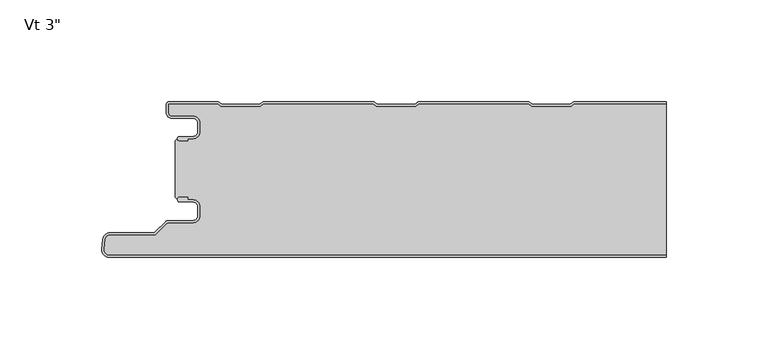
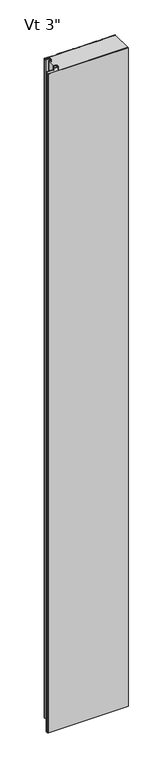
"""IFC4 building model written with IfcOpenShell, lengths in millimetres: plate geometry."""

from ifc_helpers import new_model, si_unit, point, frame, frame_2d, origin, origin_with_axes, place, context, project, spatial, polyline, circle_curve, trimmed, segment, composite_curve, outline, extrude, source, transform, mapped, element, save
from ifc_brep_helpers import plane_surface, cylinder_surface, revolved_surface, advanced_brep


def plate_640f0555(model_context):
    return source(origin(), model_context, "Body", "SolidModel", [
        advanced_brep(
        [(-118.368691, -17.0015034, 2400.0), (-119.3686883, -18.0015065, 2400.0), (-118.368691, -19.0014978, 2400.0), (-114.3684874, -19.0014979, 2400.0), (-114.3684874, -18.0015034, 2400.0), (-111.6762776, -18.0015034, 2400.0), (-108.3762819, -14.7015077, 2400.0), (-108.3762819, -10.3015164, 2400.0), (-111.6762774, -7.001521, 2400.0), (-122.0962563, -7.001521, 2400.0), (-123.8662505, -5.2315268, 2400.0), (-123.8662505, -0.9999791, 2400.0), (-99.3659738, -0.9999791, 2400.0), (-97.9803312, -2.2002182, 2400.0), (-78.6051649, -2.2002182, 2400.0), (-77.219532, -0.9999874, 2400.0), (-23.1661166, -0.9999874, 2400.0), (-21.7804836, -2.2002182, 2400.0), (-2.4053173, -2.2002182, 2400.0), (-1.0196844, -0.9999874, 2400.0), (53.033731, -0.9999874, 2400.0), (54.419364, -2.2002182, 2400.0), (73.7945303, -2.2002182, 2400.0), (75.1801632, -0.9999874, 2400.0), (120.3999998, -0.9999874, 2400.0), (120.3999998, 1.26e-05, 2400.0), (75.3293144, 1.26e-05, 2400.0), (74.4126975, -0.3417759, 2400.0), (73.4216499, -1.2002182, 2400.0), (54.7922444, -1.2002182, 2400.0), (53.8011968, -0.3417759, 2400.0), (52.8845799, 1.26e-05, 2400.0), (-0.8705332, 1.26e-05, 2400.0), (-1.7871501, -0.3417759, 2400.0), (-2.7781977, -1.2002182, 2400.0), (-21.4076032, -1.2002182, 2400.0), (-22.3986508, -0.3417759, 2400.0), (-23.3152677, 1.26e-05, 2400.0), (-77.0703808, 1.26e-05, 2400.0), (-77.9869977, -0.3417759, 2400.0), (-78.9780453, -1.2002182, 2400.0), (-97.6074508, -1.2002182, 2400.0), (-98.5984984, -0.3417759, 2400.0), (-99.5152067, 1.26e-05, 2400.0), (-123.4662543, 2.09e-05, 2400.0), (-124.8662505, -1.3999752, 2400.0), (-124.8662505, -5.2315268, 2400.0), (-122.0962563, -8.001521, 2400.0), (-111.6762774, -8.001521, 2400.0), (-109.3762819, -10.3015164, 2400.0), (-109.3762819, -14.7015077, 2400.0), (-111.6762776, -17.0015034, 2400.0), (-118.368691, -17.0015034, 0.0), (-111.6762776, -17.0015034, 0.0), (-109.3762819, -14.7015077, 0.0), (-109.3762819, -10.3015164, 0.0), (-111.6762774, -8.001521, 0.0), (-122.0962563, -8.001521, 0.0), (-124.8662505, -5.2315268, 0.0), (-124.8662505, -1.3999752, 0.0), (-123.4662543, 2.09e-05, 0.0), (-99.5151153, 2.09e-05, 0.0), (-98.5984984, -0.3417759, 0.0), (-97.6074508, -1.2002182, 0.0), (-78.9780453, -1.2002182, 0.0), (-77.9869977, -0.3417759, 0.0), (-77.0703808, 1.26e-05, 0.0), (-23.3152677, 1.26e-05, 0.0), (-22.3986508, -0.3417759, 0.0), (-21.4076032, -1.2002182, 0.0), (-2.7781977, -1.2002182, 0.0), (-1.7871501, -0.3417759, 0.0), (-0.8705332, 1.26e-05, 0.0), (52.8845799, 1.26e-05, 0.0), (53.8011968, -0.3417759, 0.0), (54.7922444, -1.2002182, 0.0), (73.4216499, -1.2002182, 0.0), (74.4126975, -0.3417759, 0.0), (75.3293144, 1.26e-05, 0.0), (120.3999998, 1.26e-05, 0.0), (120.3999998, -0.9999874, 0.0), (75.1801632, -0.9999874, 0.0), (73.7945303, -2.2002182, 0.0), (54.419364, -2.2002182, 0.0), (53.033731, -0.9999874, 0.0), (-1.0196844, -0.9999874, 0.0), (-2.4053173, -2.2002182, 0.0), (-21.7804836, -2.2002182, 0.0), (-23.1661166, -0.9999874, 0.0), (-77.219532, -0.9999874, 0.0), (-78.6051649, -2.2002182, 0.0), (-97.9803312, -2.2002182, 0.0), (-99.3659738, -0.9999791, 0.0), (-123.8662505, -0.9999791, 0.0), (-123.8662505, -5.2315268, 0.0), (-122.0962563, -7.001521, 0.0), (-111.6762774, -7.001521, 0.0), (-108.3762819, -10.3015164, 0.0), (-108.3762819, -14.7015077, 0.0), (-111.6762776, -18.0015034, 0.0), (-114.3684874, -18.0015034, 0.0), (-114.3684874, -19.0014979, 0.0), (-118.368691, -19.0014979, 0.0), (-119.3686882, -18.0015065, 0.0)],
        [
            (0, 1, circle_curve(frame((-118.368691, -18.0015006, 2400.0), z_axis=(0.0, 0.0, 1.0), x_axis=(1.0, 0.0, 0.0)), 0.9999973)),
            (1, 2, circle_curve(frame((-118.368691, -18.0015006, 2400.0), z_axis=(0.0, 0.0, 1.0), x_axis=(1.0, 0.0, 0.0)), 0.9999972)),
            (2, 3),
            (3, 4),
            (4, 5),
            (5, 6, circle_curve(frame((-111.6762776, -14.7015077, 2400.0), z_axis=(0.0, 0.0, 1.0), x_axis=(1.0, 0.0, 0.0)), 3.2999957)),
            (6, 7),
            (7, 8, circle_curve(frame((-111.6762774, -10.3015164, 2400.0), z_axis=(0.0, 0.0, 1.0), x_axis=(1.0, 0.0, 0.0)), 3.2999955)),
            (8, 9),
            (9, 10, circle_curve(frame((-122.0962563, -5.2315268, 2400.0), z_axis=(0.0, 0.0, -1.0), x_axis=(1.0, 0.0, 0.0)), 1.7699942)),
            (10, 11),
            (11, 12),
            (12, 13),
            (13, 14),
            (14, 15),
            (15, 16),
            (16, 17),
            (17, 18),
            (18, 19),
            (19, 20),
            (20, 21),
            (21, 22),
            (22, 23),
            (23, 24),
            (24, 25),
            (25, 26),
            (26, 27, circle_curve(frame((75.3293144, -1.3999846, 2400.0), z_axis=(0.0, 0.0, 1.0), x_axis=(1.0, 0.0, 0.0)), 1.3999972)),
            (27, 28),
            (28, 29),
            (29, 30),
            (30, 31, circle_curve(frame((52.8845799, -1.3999846, 2400.0), z_axis=(0.0, 0.0, 1.0), x_axis=(1.0, 0.0, 0.0)), 1.3999972)),
            (31, 32),
            (32, 33, circle_curve(frame((-0.8705332, -1.3999846, 2400.0), z_axis=(0.0, 0.0, 1.0), x_axis=(1.0, 0.0, 0.0)), 1.3999972)),
            (33, 34),
            (34, 35),
            (35, 36),
            (36, 37, circle_curve(frame((-23.3152677, -1.3999846, 2400.0), z_axis=(0.0, 0.0, 1.0), x_axis=(1.0, 0.0, 0.0)), 1.3999972)),
            (37, 38),
            (38, 39, circle_curve(frame((-77.0703808, -1.3999846, 2400.0), z_axis=(0.0, 0.0, 1.0), x_axis=(1.0, 0.0, 0.0)), 1.3999972)),
            (39, 40),
            (40, 41),
            (41, 42),
            (42, 43, circle_curve(frame((-99.5151153, -1.3999846, 2400.0), z_axis=(0.0, 0.0, 1.0), x_axis=(1.0, 0.0, 0.0)), 1.3999972)),
            (43, 44),
            (44, 45, circle_curve(frame((-123.4662543, -1.3999752, 2400.0), z_axis=(0.0, 0.0, 1.0), x_axis=(1.0, 0.0, 0.0)), 1.3999962)),
            (45, 46),
            (46, 47, circle_curve(frame((-122.0962563, -5.2315268, 2400.0), z_axis=(0.0, 0.0, 1.0), x_axis=(1.0, 0.0, 0.0)), 2.7699942)),
            (47, 48),
            (48, 49, circle_curve(frame((-111.6762774, -10.3015164, 2400.0), z_axis=(0.0, 0.0, -1.0), x_axis=(1.0, 0.0, 0.0)), 2.2999955)),
            (49, 50),
            (50, 51, circle_curve(frame((-111.6762776, -14.7015077, 2400.0), z_axis=(0.0, 0.0, -1.0), x_axis=(1.0, 0.0, 0.0)), 2.2999957)),
            (51, 0),
            (52, 53),
            (53, 54, circle_curve(frame((-111.6762776, -14.7015077, 0.0), z_axis=(0.0, 0.0, 1.0), x_axis=(1.0, 0.0, 0.0)), 2.2999957)),
            (54, 55),
            (55, 56, circle_curve(frame((-111.6762774, -10.3015164, 0.0), z_axis=(0.0, 0.0, 1.0), x_axis=(1.0, 0.0, 0.0)), 2.2999955)),
            (56, 57),
            (57, 58, circle_curve(frame((-122.0962563, -5.2315268, 0.0), z_axis=(0.0, 0.0, -1.0), x_axis=(1.0, 0.0, 0.0)), 2.7699942)),
            (58, 59),
            (59, 60, circle_curve(frame((-123.4662543, -1.3999752, 0.0), z_axis=(0.0, 0.0, -1.0), x_axis=(1.0, 0.0, 0.0)), 1.3999962)),
            (60, 61),
            (61, 62, circle_curve(frame((-99.5151153, -1.3999846, 0.0), z_axis=(0.0, 0.0, -1.0), x_axis=(1.0, 0.0, 0.0)), 1.3999972)),
            (62, 63),
            (63, 64),
            (64, 65),
            (65, 66, circle_curve(frame((-77.0703808, -1.3999846, 0.0), z_axis=(0.0, 0.0, -1.0), x_axis=(1.0, 0.0, 0.0)), 1.3999972)),
            (66, 67),
            (67, 68, circle_curve(frame((-23.3152677, -1.3999846, 0.0), z_axis=(0.0, 0.0, -1.0), x_axis=(1.0, 0.0, 0.0)), 1.3999972)),
            (68, 69),
            (69, 70),
            (70, 71),
            (71, 72, circle_curve(frame((-0.8705332, -1.3999846, 0.0), z_axis=(0.0, 0.0, -1.0), x_axis=(1.0, 0.0, 0.0)), 1.3999972)),
            (72, 73),
            (73, 74, circle_curve(frame((52.8845799, -1.3999846, 0.0), z_axis=(0.0, 0.0, -1.0), x_axis=(1.0, 0.0, 0.0)), 1.3999972)),
            (74, 75),
            (75, 76),
            (76, 77),
            (77, 78, circle_curve(frame((75.3293144, -1.3999846, 0.0), z_axis=(0.0, 0.0, -1.0), x_axis=(1.0, 0.0, 0.0)), 1.3999972)),
            (78, 79),
            (79, 80),
            (80, 81),
            (81, 82),
            (82, 83),
            (83, 84),
            (84, 85),
            (85, 86),
            (86, 87),
            (87, 88),
            (88, 89),
            (89, 90),
            (90, 91),
            (91, 92),
            (92, 93),
            (93, 94),
            (94, 95, circle_curve(frame((-122.0962563, -5.2315268, 0.0), z_axis=(0.0, 0.0, 1.0), x_axis=(1.0, 0.0, 0.0)), 1.7699942)),
            (95, 96),
            (96, 97, circle_curve(frame((-111.6762774, -10.3015164, 0.0), z_axis=(0.0, 0.0, -1.0), x_axis=(1.0, 0.0, 0.0)), 3.2999955)),
            (97, 98),
            (98, 99, circle_curve(frame((-111.6762776, -14.7015077, 0.0), z_axis=(0.0, 0.0, -1.0), x_axis=(1.0, 0.0, 0.0)), 3.2999957)),
            (99, 100),
            (100, 101),
            (101, 102),
            (102, 103, circle_curve(frame((-118.368691, -18.0015006, 0.0), z_axis=(0.0, 0.0, -1.0), x_axis=(1.0, 0.0, 0.0)), 0.9999972)),
            (103, 52, circle_curve(frame((-118.368691, -18.0015006, 0.0), z_axis=(0.0, 0.0, -1.0), x_axis=(1.0, 0.0, 0.0)), 0.9999973)),
            (24, 80),
            (79, 25),
            (51, 53),
            (52, 0),
            (50, 54),
            (49, 55),
            (48, 56),
            (47, 57),
            (46, 58),
            (45, 59),
            (44, 60),
            (43, 61),
            (78, 26),
            (42, 62),
            (41, 63),
            (40, 64),
            (38, 66),
            (65, 39),
            (36, 68),
            (67, 37),
            (77, 27),
            (76, 28),
            (31, 73),
            (72, 32),
            (71, 33),
            (34, 70),
            (69, 35),
            (30, 74),
            (29, 75),
            (2, 102),
            (101, 3),
            (1, 103),
            (23, 81),
            (22, 82),
            (21, 83),
            (20, 84),
            (19, 85),
            (18, 86),
            (17, 87),
            (16, 88),
            (15, 89),
            (14, 90),
            (13, 91),
            (12, 92),
            (11, 93),
            (10, 94),
            (9, 95),
            (8, 96),
            (7, 97),
            (6, 98),
            (5, 99),
            (4, 100),
        ],
        [
            plane_surface(frame((184.4000002, 1.26e-05, 2400.0), z_axis=(0.0, 0.0, 1.0), x_axis=(0.0, 1.0, 0.0))),
            plane_surface(frame((184.4000002, 1.26e-05, 0.0), z_axis=(0.0, 0.0, -1.0), x_axis=(0.0, 1.0, 0.0))),
            plane_surface(frame((120.3999998, -86.1999874, 2400.0), z_axis=(1.0, 0.0, 0.0), x_axis=(0.0, 0.0, -1.0))),
            plane_surface(frame((-118.368691, -17.0015034, 2400.0), z_axis=(0.0, 1.0, 0.0), x_axis=(0.0, 0.0, -1.0))),
            revolved_surface(polyline([(-109.37628190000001, -14.7015077, 0.0), (-109.37628190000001, -14.7015077, 2400.0)]), (-111.6762776, -14.7015077, 2400.0), (0.0, 0.0, -1.0)),
            plane_surface(frame((-109.3762819, -14.7015077, 2400.0), z_axis=(-1.0, 0.0, 0.0), x_axis=(0.0, 0.0, -1.0))),
            revolved_surface(polyline([(-109.37628190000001, -10.3015164, 0.0), (-109.37628190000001, -10.3015164, 2400.0)]), (-111.6762774, -10.3015164, 2400.0), (0.0, 0.0, -1.0)),
            plane_surface(frame((-111.6762774, -8.001521, 2400.0), z_axis=(0.0, -1.0, 0.0), x_axis=(0.0, 0.0, -1.0))),
            cylinder_surface(frame((-122.0962563, -5.2315268, 2400.0), z_axis=(0.0, 0.0, 1.0), x_axis=(1.0, 0.0, 0.0)), 2.7699942),
            plane_surface(frame((-124.8662505, -5.2315268, 2400.0), z_axis=(-1.0, 0.0, 0.0), x_axis=(0.0, 0.0, -1.0))),
            cylinder_surface(frame((-123.4662543, -1.3999752, 2400.0), z_axis=(0.0, 0.0, 1.0), x_axis=(1.0, 0.0, 0.0)), 1.3999962),
            plane_surface(frame((-123.4662543, 2.09e-05, 2400.0), z_axis=(0.0, 1.0, 0.0), x_axis=(0.0, 0.0, -1.0))),
            plane_surface(frame((75.3293144, 1.26e-05, 2400.0), z_axis=(0.0, 1.0, 0.0), x_axis=(0.0, 0.0, -1.0))),
            cylinder_surface(frame((-99.5151153, -1.3999846, 2400.0), z_axis=(0.0, 0.0, 1.0), x_axis=(1.0, 0.0, 0.0)), 1.3999972),
            plane_surface(frame((-98.5984984, -0.3417759, 2400.0), z_axis=(0.6547276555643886, 0.755864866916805, 0.0), x_axis=(0.0, 0.0, -1.0))),
            plane_surface(frame((-88.2927481, -1.2002182, 2400.0), z_axis=(0.0, 1.0, 0.0), x_axis=(0.0, 0.0, -1.0))),
            cylinder_surface(frame((-77.0703808, -1.3999846, 2400.0), z_axis=(0.0, 0.0, 1.0), x_axis=(1.0, 0.0, 0.0)), 1.3999972),
            plane_surface(frame((-78.9780453, -1.2002182, 2400.0), z_axis=(-0.6547276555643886, 0.755864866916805, 0.0), x_axis=(0.0, 0.0, -1.0))),
            cylinder_surface(frame((-23.3152677, -1.3999846, 2400.0), z_axis=(0.0, 0.0, 1.0), x_axis=(1.0, 0.0, 0.0)), 1.3999972),
            cylinder_surface(frame((75.3293144, -1.3999846, 2400.0), z_axis=(0.0, 0.0, 1.0), x_axis=(1.0, 0.0, 0.0)), 1.3999972),
            plane_surface(frame((73.4216499, -1.2002182, 2400.0), z_axis=(-0.6547276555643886, 0.755864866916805, 0.0), x_axis=(0.0, 0.0, -1.0))),
            plane_surface(frame((-0.8705332, 1.26e-05, 2400.0), z_axis=(0.0, 1.0, 0.0), x_axis=(0.0, 0.0, -1.0))),
            cylinder_surface(frame((-0.8705332, -1.3999846, 2400.0), z_axis=(0.0, 0.0, 1.0), x_axis=(1.0, 0.0, 0.0)), 1.3999972),
            plane_surface(frame((-12.0929005, -1.2002182, 2400.0), z_axis=(0.0, 1.0, 0.0), x_axis=(0.0, 0.0, -1.0))),
            plane_surface(frame((-22.3986508, -0.3417759, 2400.0), z_axis=(0.6547276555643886, 0.755864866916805, 0.0), x_axis=(0.0, 0.0, -1.0))),
            plane_surface(frame((-2.7781977, -1.2002182, 2400.0), z_axis=(-0.6547276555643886, 0.755864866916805, 0.0), x_axis=(0.0, 0.0, -1.0))),
            plane_surface(frame((-77.0703808, 1.26e-05, 2400.0), z_axis=(0.0, 1.0, 0.0), x_axis=(0.0, 0.0, -1.0))),
            cylinder_surface(frame((52.8845799, -1.3999846, 2400.0), z_axis=(0.0, 0.0, 1.0), x_axis=(1.0, 0.0, 0.0)), 1.3999972),
            plane_surface(frame((53.8011968, -0.3417759, 2400.0), z_axis=(0.6547276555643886, 0.755864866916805, 0.0), x_axis=(0.0, 0.0, -1.0))),
            plane_surface(frame((64.1069471, -1.2002182, 2400.0), z_axis=(0.0, 1.0, 0.0), x_axis=(0.0, 0.0, -1.0))),
            plane_surface(frame((-114.3684874, -19.0014979, 2400.0), z_axis=(0.0, -1.0, 0.0), x_axis=(0.0, 0.0, -1.0))),
            cylinder_surface(frame((-118.368691, -18.0015006, 2400.0), z_axis=(0.0, 0.0, 1.0), x_axis=(1.0, 0.0, 0.0)), 0.9999972),
            cylinder_surface(frame((-118.368691, -18.0015006, 2400.0), z_axis=(0.0, 0.0, 1.0), x_axis=(1.0, 0.0, 0.0)), 0.9999973),
            plane_surface(frame((129.2335786, -0.9999874, 2400.0), z_axis=(0.0, -1.0, 0.0), x_axis=(0.0, 0.0, -1.0))),
            plane_surface(frame((75.1801632, -0.9999874, 2400.0), z_axis=(0.6547276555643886, -0.755864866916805, 0.0), x_axis=(0.0, 0.0, -1.0))),
            plane_surface(frame((73.7945303, -2.2002182, 2400.0), z_axis=(0.0, -1.0, 0.0), x_axis=(0.0, 0.0, -1.0))),
            plane_surface(frame((54.419364, -2.2002182, 2400.0), z_axis=(-0.6547276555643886, -0.755864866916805, 0.0), x_axis=(0.0, 0.0, -1.0))),
            plane_surface(frame((53.033731, -0.9999874, 2400.0), z_axis=(0.0, -1.0, 0.0), x_axis=(0.0, 0.0, -1.0))),
            plane_surface(frame((-1.0196844, -0.9999874, 2400.0), z_axis=(0.6547276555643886, -0.755864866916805, 0.0), x_axis=(0.0, 0.0, -1.0))),
            plane_surface(frame((-2.4053173, -2.2002182, 2400.0), z_axis=(0.0, -1.0, 0.0), x_axis=(0.0, 0.0, -1.0))),
            plane_surface(frame((-21.7804836, -2.2002182, 2400.0), z_axis=(-0.6547276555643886, -0.755864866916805, 0.0), x_axis=(0.0, 0.0, -1.0))),
            plane_surface(frame((-23.1661166, -0.9999874, 2400.0), z_axis=(0.0, -1.0, 0.0), x_axis=(0.0, 0.0, -1.0))),
            plane_surface(frame((-77.219532, -0.9999874, 2400.0), z_axis=(0.6547276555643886, -0.755864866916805, 0.0), x_axis=(0.0, 0.0, -1.0))),
            plane_surface(frame((-78.6051649, -2.2002182, 2400.0), z_axis=(0.0, -1.0, 0.0), x_axis=(0.0, 0.0, -1.0))),
            plane_surface(frame((-97.9803312, -2.2002182, 2400.0), z_axis=(-0.6547276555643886, -0.755864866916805, 0.0), x_axis=(0.0, 0.0, -1.0))),
            plane_surface(frame((-99.3659738, -0.9999791, 2400.0), z_axis=(0.0, -1.0, 0.0), x_axis=(0.0, 0.0, -1.0))),
            plane_surface(frame((-123.8662505, -0.9999791, 2400.0), z_axis=(1.0, 0.0, 0.0), x_axis=(0.0, 0.0, -1.0))),
            revolved_surface(polyline([(-120.3262621, -5.2315268, 0.0), (-120.3262621, -5.2315268, 2400.0)]), (-122.0962563, -5.2315268, 2400.0), (0.0, 0.0, -1.0)),
            plane_surface(frame((-122.0962563, -7.001521, 2400.0), z_axis=(0.0, 1.0, 0.0), x_axis=(0.0, 0.0, -1.0))),
            cylinder_surface(frame((-111.6762774, -10.3015164, 2400.0), z_axis=(0.0, 0.0, 1.0), x_axis=(1.0, 0.0, 0.0)), 3.2999955),
            plane_surface(frame((-108.3762819, -10.3015164, 2400.0), z_axis=(1.0, 0.0, 0.0), x_axis=(0.0, 0.0, -1.0))),
            cylinder_surface(frame((-111.6762776, -14.7015077, 2400.0), z_axis=(0.0, 0.0, 1.0), x_axis=(1.0, 0.0, 0.0)), 3.2999957),
            plane_surface(frame((-111.6762776, -18.0015034, 2400.0), z_axis=(0.0, -1.0, 0.0), x_axis=(0.0, 0.0, -1.0))),
            plane_surface(frame((-114.3684874, -18.0015034, 2400.0), z_axis=(1.0, 0.0, 0.0), x_axis=(0.0, 0.0, -1.0))),
        ],
        [
            (0, [[1, 2, 3, 4, 5, 6, 7, 8, 9, 10, 11, 12, 13, 14, 15, 16, 17, 18, 19, 20, 21, 22, 23, 24, 25, 26, 27, 28, 29, 30, 31, 32, 33, 34, 35, 36, 37, 38, 39, 40, 41, 42, 43, 44, 45, 46, 47, 48, 49, 50, 51, 52]]),
            (1, [[53, 54, 55, 56, 57, 58, 59, 60, 61, 62, 63, 64, 65, 66, 67, 68, 69, 70, 71, 72, 73, 74, 75, 76, 77, 78, 79, 80, 81, 82, 83, 84, 85, 86, 87, 88, 89, 90, 91, 92, 93, 94, 95, 96, 97, 98, 99, 100, 101, 102, 103, 104]]),
            (2, [[105, -80, 106, -25]]),
            (3, [[107, -53, 108, -52]]),
            (4, [[109, -54, -107, -51]]),
            (5, [[110, -55, -109, -50]]),
            (6, [[111, -56, -110, -49]]),
            (7, [[112, -57, -111, -48]]),
            (8, [[113, -58, -112, -47]]),
            (9, [[114, -59, -113, -46]]),
            (10, [[115, -60, -114, -45]]),
            (11, [[116, -61, -115, -44]]),
            (12, [[-26, -106, -79, 117]]),
            (13, [[118, -62, -116, -43]]),
            (14, [[119, -63, -118, -42]]),
            (15, [[120, -64, -119, -41]]),
            (16, [[121, -66, 122, -39]]),
            (17, [[-122, -65, -120, -40]]),
            (18, [[123, -68, 124, -37]]),
            (19, [[-117, -78, 125, -27]]),
            (20, [[-125, -77, 126, -28]]),
            (21, [[127, -73, 128, -32]]),
            (22, [[-128, -72, 129, -33]]),
            (23, [[130, -70, 131, -35]]),
            (24, [[-131, -69, -123, -36]]),
            (25, [[-129, -71, -130, -34]]),
            (26, [[-124, -67, -121, -38]]),
            (27, [[132, -74, -127, -31]]),
            (28, [[133, -75, -132, -30]]),
            (29, [[-126, -76, -133, -29]]),
            (30, [[134, -102, 135, -3]]),
            (31, [[136, -103, -134, -2]]),
            (32, [[-108, -104, -136, -1]]),
            (33, [[-81, -105, -24, 137]]),
            (34, [[138, -82, -137, -23]]),
            (35, [[139, -83, -138, -22]]),
            (36, [[140, -84, -139, -21]]),
            (37, [[141, -85, -140, -20]]),
            (38, [[142, -86, -141, -19]]),
            (39, [[143, -87, -142, -18]]),
            (40, [[144, -88, -143, -17]]),
            (41, [[145, -89, -144, -16]]),
            (42, [[146, -90, -145, -15]]),
            (43, [[147, -91, -146, -14]]),
            (44, [[148, -92, -147, -13]]),
            (45, [[149, -93, -148, -12]]),
            (46, [[150, -94, -149, -11]]),
            (47, [[151, -95, -150, -10]]),
            (48, [[152, -96, -151, -9]]),
            (49, [[153, -97, -152, -8]]),
            (50, [[154, -98, -153, -7]]),
            (51, [[155, -99, -154, -6]]),
            (52, [[156, -100, -155, -5]]),
            (53, [[-135, -101, -156, -4]]),
        ],
    ),
        extrude(outline(composite_curve([segment(polyline([(-156.4087505, -72.3183478), (-155.9690674, -67.2944311)]), True, "CONTINUOUS"), segment(trimmed(circle_curve(frame_2d((-152.3198391, -67.9052322)), 3.6999926), [point((-155.9690674, -67.2944311))], [point((-152.3198391, -64.2052396))], False, "CARTESIAN"), True, "CONTINUOUS"), segment(polyline([(-152.3198391, -64.2052396), (-131.1773995, -64.2052396)]), True, "CONTINUOUS"), segment(trimmed(circle_curve(frame_2d((-131.1773995, -62.9052422)), 1.2999974), [point((-131.1773995, -64.2052396))], [point((-130.2581626, -63.8244792))], True, "CARTESIAN"), True, "CONTINUOUS"), segment(polyline([(-130.2581626, -63.8244792), (-125.4297451, -58.9960618)]), True, "CONTINUOUS"), segment(trimmed(circle_curve(frame_2d((-123.5205606, -60.9052462)), 2.6999946), [point((-125.4297451, -58.9960618))], [point((-123.5205606, -58.2052516))], False, "CARTESIAN"), True, "CONTINUOUS"), segment(polyline([(-123.5205606, -58.2052516), (-111.7096715, -58.2052516)]), True, "CONTINUOUS"), segment(trimmed(circle_curve(frame_2d((-111.7096715, -55.8552563)), 2.3499953), [point((-111.7096715, -58.2052516))], [point((-109.3596762, -55.8552563))], True, "CARTESIAN"), True, "CONTINUOUS"), segment(polyline([(-109.3596762, -55.8552563), (-109.3596762, -51.4552651)]), True, "CONTINUOUS"), segment(trimmed(circle_curve(frame_2d((-111.7096715, -51.4552651)), 2.3499953), [point((-109.3596762, -51.4552651))], [point((-111.7096715, -49.1052698))], True, "CARTESIAN"), True, "CONTINUOUS"), segment(polyline([(-111.7096715, -49.1052698), (-118.2289777, -49.1052698)]), True, "CONTINUOUS"), segment(trimmed(circle_curve(frame_2d((-118.1686906, -47.9067876)), 1.1999976), [point((-118.2289777, -49.1052698))], [point((-119.3683, -47.8762657))], False, "CARTESIAN"), True, "CONTINUOUS"), segment(trimmed(circle_curve(frame_2d((-118.1686906, -47.9067876)), 1.1999976), [point((-119.3683, -47.8762657))], [point((-118.167176, -46.706791))], False, "CARTESIAN"), True, "CONTINUOUS"), segment(polyline([(-118.167176, -46.706791), (-114.4087826, -46.706791), (-114.4087826, -48.1052698), (-111.7096715, -48.1052698)]), True, "CONTINUOUS"), segment(trimmed(circle_curve(frame_2d((-111.7096715, -51.4552651)), 3.3499953), [point((-111.7096715, -48.1052698))], [point((-108.3596762, -51.4552651))], False, "CARTESIAN"), True, "CONTINUOUS"), segment(polyline([(-108.3596762, -51.4552651), (-108.3596762, -55.8552563)]), True, "CONTINUOUS"), segment(trimmed(circle_curve(frame_2d((-111.7096715, -55.8552563)), 3.3499953), [point((-108.3596762, -55.8552563))], [point((-111.7096715, -59.2052516))], False, "CARTESIAN"), True, "CONTINUOUS"), segment(polyline([(-111.7096715, -59.2052516), (-123.5205606, -59.2052516)]), True, "CONTINUOUS"), segment(trimmed(circle_curve(frame_2d((-123.5205606, -60.9052462)), 1.6999946), [point((-123.5205606, -59.2052516))], [point((-124.7226383, -59.7031685))], True, "CARTESIAN"), True, "CONTINUOUS"), segment(polyline([(-124.7226383, -59.7031685), (-130.2247094, -65.2052396), (-152.3198391, -65.2052396)]), True, "CONTINUOUS"), segment(trimmed(circle_curve(frame_2d((-152.3198391, -67.9052322)), 2.6999926), [point((-152.3198391, -65.2052396))], [point((-154.9765707, -67.4238416))], True, "CARTESIAN"), True, "CONTINUOUS"), segment(polyline([(-154.9765707, -67.4238416), (-155.4125697, -72.4056625)]), True, "CONTINUOUS"), segment(trimmed(circle_curve(frame_2d((-152.8521175, -72.6297482)), 2.5702393), [point((-155.4125697, -72.4056625))], [point((-152.9094458, -75.199348))], True, "CARTESIAN"), True, "CONTINUOUS"), segment(polyline([(-152.9094458, -75.199348), (120.3999998, -75.199348), (120.3999998, -76.1996828), (-152.8521038, -76.1998575)]), True, "CONTINUOUS"), segment(trimmed(circle_curve(frame_2d((-152.8521061, -72.6296182)), 3.5702393), [point((-152.8521038, -76.1998575))], [point((-156.4087505, -72.3183478))], False, "CARTESIAN"), True, "CONTINUOUS")], self_intersect=False)), origin_with_axes(), (0.0, 0.0, 1.0), 2400.0),
        advanced_brep(
        [(-119.3683, -47.8708624, 2400.0), (-118.167176, -46.7013877, 2400.0), (-114.4087826, -46.7013877, 2400.0), (-114.4087826, -48.0998666, 2400.0), (-111.7096715, -48.0998666, 2400.0), (-108.3596762, -51.4498619, 2400.0), (-108.3596762, -55.8498531, 2400.0), (-111.7096715, -59.1998484, 2400.0), (-123.5205606, -59.1998484, 2400.0), (-124.7226383, -59.6977653, 2400.0), (-130.2247094, -65.1998364, 2400.0), (-152.3198391, -65.1998364, 2400.0), (-154.9765707, -67.4184384, 2400.0), (-155.4125697, -72.4002592, 2400.0), (-152.8521175, -75.1945842, 2400.0), (120.3999998, -75.1999874, 2400.0), (120.3999998, -0.9999874, 2400.0), (75.1801633, -0.9999874, 2400.0), (73.7945303, -2.2002182, 2400.0), (54.419364, -2.2002182, 2400.0), (53.0337311, -0.9999874, 2400.0), (-1.0196843, -0.9999874, 2400.0), (-2.4053173, -2.2002182, 2400.0), (-21.7804836, -2.2002182, 2400.0), (-23.1661165, -0.9999874, 2400.0), (-77.2195319, -0.9999874, 2400.0), (-78.6051649, -2.2002182, 2400.0), (-97.9803312, -2.2002182, 2400.0), (-99.3659738, -0.9999791, 2400.0), (-123.8662504, -0.9999791, 2400.0), (-123.8662504, -5.2315264, 2400.0), (-122.0962562, -7.0015206, 2400.0), (-111.6762777, -7.0015206, 2400.0), (-108.3762818, -10.3015164, 2400.0), (-108.3762818, -14.7015077, 2400.0), (-111.6762775, -18.0015034, 2400.0), (-114.3684873, -18.0015034, 2400.0), (-114.3684873, -19.0014979, 2400.0), (-118.368691, -19.0014979, 2400.0), (-119.3686882, -18.0015066, 2400.0), (-120.3999998, -19.0328183, 2400.0), (-120.3999998, -46.8391626, 2400.0), (-119.3683, -47.8708624, 0.0), (-120.3999998, -46.8391626, 0.0), (-120.3999998, -19.0328183, 0.0), (-119.3686882, -18.0015066, 0.0), (-118.368691, -19.0014979, 0.0), (-114.3684873, -19.0014979, 0.0), (-114.3684873, -18.0015034, 0.0), (-111.6762775, -18.0015034, 0.0), (-108.3762818, -14.7015077, 0.0), (-108.3762818, -10.3015164, 0.0), (-111.6762777, -7.0015206, 0.0), (-122.0962562, -7.0015206, 0.0), (-123.8662504, -5.2315264, 0.0), (-123.8662504, -0.9999791, 0.0), (-99.3659738, -0.9999791, 0.0), (-97.9803312, -2.2002182, 0.0), (-78.6051649, -2.2002182, 0.0), (-77.2195319, -0.9999874, 0.0), (-23.1661165, -0.9999874, 0.0), (-21.7804836, -2.2002182, 0.0), (-2.4053173, -2.2002182, 0.0), (-1.0196843, -0.9999874, 0.0), (53.0337311, -0.9999874, 0.0), (54.419364, -2.2002182, 0.0), (73.7945303, -2.2002182, 0.0), (75.1801633, -0.9999874, 0.0), (120.3999998, -0.9999874, 0.0), (120.3999998, -75.1999874, 0.0), (-152.8521175, -75.1999874, 0.0), (-155.4125697, -72.4002592, 0.0), (-154.9765707, -67.4184384, 0.0), (-152.3198391, -65.1998364, 0.0), (-130.2247094, -65.1998364, 0.0), (-124.7226383, -59.6977653, 0.0), (-123.5205606, -59.1998484, 0.0), (-111.7096715, -59.1998484, 0.0), (-108.3596762, -55.8498531, 0.0), (-108.3596762, -51.4498619, 0.0), (-111.7096715, -48.0998666, 0.0), (-114.4087826, -48.0998666, 0.0), (-114.4087826, -46.7013877, 0.0), (-118.167176, -46.7013877, 0.0)],
        [
            (0, 1, circle_curve(frame((-118.1686906, -47.9013843, 2400.0), z_axis=(0.0, 0.0, -1.0), x_axis=(-1.0, 0.0, 0.0)), 1.1999976)),
            (1, 2),
            (2, 3),
            (3, 4),
            (4, 5, circle_curve(frame((-111.7096715, -51.4498619, 2400.0), z_axis=(0.0, 0.0, -1.0), x_axis=(-1.0, 0.0, 0.0)), 3.3499953)),
            (5, 6),
            (6, 7, circle_curve(frame((-111.7096715, -55.8498531, 2400.0), z_axis=(0.0, 0.0, -1.0), x_axis=(-1.0, 0.0, 0.0)), 3.3499953)),
            (7, 8),
            (8, 9, circle_curve(frame((-123.5205606, -60.899843, 2400.0), z_axis=(0.0, 0.0, 1.0), x_axis=(-1.0, 0.0, 0.0)), 1.6999946)),
            (9, 10),
            (10, 11),
            (11, 12, circle_curve(frame((-152.3198391, -67.899829, 2400.0), z_axis=(0.0, 0.0, 1.0), x_axis=(-1.0, 0.0, 0.0)), 2.6999926)),
            (12, 13),
            (13, 14, circle_curve(frame((-152.8521175, -72.6243449, 2400.0), z_axis=(0.0, 0.0, 1.0), x_axis=(-1.0, 0.0, 0.0)), 2.5702393)),
            (14, 15),
            (15, 16),
            (16, 17),
            (17, 18),
            (18, 19),
            (19, 20),
            (20, 21),
            (21, 22),
            (22, 23),
            (23, 24),
            (24, 25),
            (25, 26),
            (26, 27),
            (27, 28),
            (28, 29),
            (29, 30),
            (30, 31, circle_curve(frame((-122.0962562, -5.2315264, 2400.0), z_axis=(0.0, 0.0, 1.0), x_axis=(1.0, 0.0, 0.0)), 1.7699942)),
            (31, 32),
            (32, 33, circle_curve(frame((-111.6762777, -10.3015164, 2400.0), z_axis=(0.0, 0.0, -1.0), x_axis=(1.0, 0.0, 0.0)), 3.2999959)),
            (33, 34),
            (34, 35, circle_curve(frame((-111.6762775, -14.7015077, 2400.0), z_axis=(0.0, 0.0, -1.0), x_axis=(1.0, 0.0, 0.0)), 3.2999957)),
            (35, 36),
            (36, 37),
            (37, 38),
            (38, 39, circle_curve(frame((-118.368691, -18.0015007, 2400.0), z_axis=(0.0, 0.0, -1.0), x_axis=(1.0, 0.0, 0.0)), 0.9999972)),
            (39, 40),
            (40, 41),
            (41, 0),
            (42, 43),
            (43, 44),
            (44, 45),
            (45, 46, circle_curve(frame((-118.368691, -18.0015007, 0.0), z_axis=(0.0, 0.0, 1.0), x_axis=(1.0, 0.0, 0.0)), 0.9999972)),
            (46, 47),
            (47, 48),
            (48, 49),
            (49, 50, circle_curve(frame((-111.6762775, -14.7015077, 0.0), z_axis=(0.0, 0.0, 1.0), x_axis=(1.0, 0.0, 0.0)), 3.2999957)),
            (50, 51),
            (51, 52, circle_curve(frame((-111.6762777, -10.3015164, 0.0), z_axis=(0.0, 0.0, 1.0), x_axis=(1.0, 0.0, 0.0)), 3.2999959)),
            (52, 53),
            (53, 54, circle_curve(frame((-122.0962562, -5.2315264, 0.0), z_axis=(0.0, 0.0, -1.0), x_axis=(1.0, 0.0, 0.0)), 1.7699942)),
            (54, 55),
            (55, 56),
            (56, 57),
            (57, 58),
            (58, 59),
            (59, 60),
            (60, 61),
            (61, 62),
            (62, 63),
            (63, 64),
            (64, 65),
            (65, 66),
            (66, 67),
            (67, 68),
            (68, 69),
            (69, 70),
            (70, 71, circle_curve(frame((-152.8521175, -72.6243449, 0.0), z_axis=(0.0, 0.0, -1.0), x_axis=(-1.0, 0.0, 0.0)), 2.5702393)),
            (71, 72),
            (72, 73, circle_curve(frame((-152.3198391, -67.899829, 0.0), z_axis=(0.0, 0.0, -1.0), x_axis=(-1.0, 0.0, 0.0)), 2.6999926)),
            (73, 74),
            (74, 75),
            (75, 76, circle_curve(frame((-123.5205606, -60.899843, 0.0), z_axis=(0.0, 0.0, -1.0), x_axis=(-1.0, 0.0, 0.0)), 1.6999946)),
            (76, 77),
            (77, 78, circle_curve(frame((-111.7096715, -55.8498531, 0.0), z_axis=(0.0, 0.0, 1.0), x_axis=(-1.0, 0.0, 0.0)), 3.3499953)),
            (78, 79),
            (79, 80, circle_curve(frame((-111.7096715, -51.4498619, 0.0), z_axis=(0.0, 0.0, 1.0), x_axis=(-1.0, 0.0, 0.0)), 3.3499953)),
            (80, 81),
            (81, 82),
            (82, 83),
            (83, 42, circle_curve(frame((-118.1686906, -47.9013843, 0.0), z_axis=(0.0, 0.0, 1.0), x_axis=(-1.0, 0.0, 0.0)), 1.1999976)),
            (41, 43),
            (42, 0),
            (40, 44),
            (69, 15),
            (14, 70),
            (13, 71),
            (12, 72),
            (11, 73),
            (10, 74),
            (9, 75),
            (8, 76),
            (7, 77),
            (6, 78),
            (5, 79),
            (4, 80),
            (3, 81),
            (2, 82),
            (1, 83),
            (39, 45),
            (38, 46),
            (37, 47),
            (36, 48),
            (35, 49),
            (34, 50),
            (33, 51),
            (32, 52),
            (31, 53),
            (30, 54),
            (29, 55),
            (27, 57),
            (56, 28),
            (68, 16),
            (26, 58),
            (25, 59),
            (24, 60),
            (23, 61),
            (22, 62),
            (21, 63),
            (20, 64),
            (19, 65),
            (18, 66),
            (17, 67),
        ],
        [
            plane_surface(frame((184.4000002, -75.1999874, 2400.0), z_axis=(0.0, 0.0, 1.0), x_axis=(0.0, -1.0, 0.0))),
            plane_surface(frame((184.4000002, -75.1999874, 0.0), z_axis=(0.0, 0.0, -1.0), x_axis=(0.0, -1.0, 0.0))),
            plane_surface(frame((-119.3683, -47.8708624, 2400.0), z_axis=(-0.7071067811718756, -0.7071067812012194, 0.0), x_axis=(0.0, 0.0, -1.0))),
            plane_surface(frame((-120.3999998, -46.8391626, 2400.0), z_axis=(-1.0, 0.0, 0.0), x_axis=(0.0, 0.0, -1.0))),
            plane_surface(frame((440.7156221, -75.1999874, 2400.0), z_axis=(0.0, -1.0, 0.0), x_axis=(0.0, 0.0, -1.0))),
            cylinder_surface(frame((-152.8521175, -72.6243449, 2400.0), z_axis=(0.0, 0.0, 1.0), x_axis=(-1.0, 0.0, 0.0)), 2.5702393),
            plane_surface(frame((-155.4125697, -72.4002592, 2400.0), z_axis=(-0.9961921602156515, 0.08718474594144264, 0.0), x_axis=(0.0, 0.0, -1.0))),
            cylinder_surface(frame((-152.3198391, -67.899829, 2400.0), z_axis=(0.0, 0.0, 1.0), x_axis=(-1.0, 0.0, 0.0)), 2.6999926),
            plane_surface(frame((-152.3198391, -65.1998364, 2400.0), z_axis=(0.0, 1.0, 0.0), x_axis=(0.0, 0.0, -1.0))),
            plane_surface(frame((-130.2247094, -65.1998364, 2400.0), z_axis=(-0.7071067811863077, 0.7071067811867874, 0.0), x_axis=(0.0, 0.0, -1.0))),
            cylinder_surface(frame((-123.5205606, -60.899843, 2400.0), z_axis=(0.0, 0.0, 1.0), x_axis=(-1.0, 0.0, 0.0)), 1.6999946),
            plane_surface(frame((-123.5205606, -59.1998484, 2400.0), z_axis=(0.0, 1.0, 0.0), x_axis=(0.0, 0.0, -1.0))),
            revolved_surface(polyline([(-115.0596668, -55.8498531, 0.0), (-115.0596668, -55.8498531, 2400.0)]), (-111.7096715, -55.8498531, 2400.0), (0.0, 0.0, -1.0)),
            plane_surface(frame((-108.3596762, -55.8498531, 2400.0), z_axis=(-1.0, 0.0, 0.0), x_axis=(0.0, 0.0, -1.0))),
            revolved_surface(polyline([(-115.0596668, -51.4498619, 0.0), (-115.0596668, -51.4498619, 2400.0)]), (-111.7096715, -51.4498619, 2400.0), (0.0, 0.0, -1.0)),
            plane_surface(frame((-111.7096715, -48.0998666, 2400.0), z_axis=(0.0, -1.0, 0.0), x_axis=(0.0, 0.0, -1.0))),
            plane_surface(frame((-114.4087826, -48.0998666, 2400.0), z_axis=(-1.0, 0.0, 0.0), x_axis=(0.0, 0.0, -1.0))),
            plane_surface(frame((-114.4087826, -46.7013877, 2400.0), z_axis=(0.0, -1.0, 0.0), x_axis=(0.0, 0.0, -1.0))),
            revolved_surface(polyline([(-119.36868820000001, -47.9013843, 0.0), (-119.36868820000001, -47.9013843, 2400.0)]), (-118.1686906, -47.9013843, 2400.0), (0.0, 0.0, -1.0)),
            plane_surface(frame((-120.3999998, -19.0328183, 2400.0), z_axis=(-0.7071067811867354, 0.7071067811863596, 0.0), x_axis=(0.0, 0.0, -1.0))),
            revolved_surface(polyline([(-117.3686938, -18.0015007, 0.0), (-117.3686938, -18.0015007, 2400.0)]), (-118.368691, -18.0015007, 2400.0), (0.0, 0.0, -1.0)),
            plane_surface(frame((-118.368691, -19.0014979, 2400.0), z_axis=(0.0, 1.0, 0.0), x_axis=(0.0, 0.0, -1.0))),
            plane_surface(frame((-114.3684873, -19.0014979, 2400.0), z_axis=(-1.0, 0.0, 0.0), x_axis=(0.0, 0.0, -1.0))),
            plane_surface(frame((-114.3684873, -18.0015034, 2400.0), z_axis=(0.0, 1.0, 0.0), x_axis=(0.0, 0.0, -1.0))),
            revolved_surface(polyline([(-108.3762818, -14.7015077, 0.0), (-108.3762818, -14.7015077, 2400.0)]), (-111.6762775, -14.7015077, 2400.0), (0.0, 0.0, -1.0)),
            plane_surface(frame((-108.3762818, -14.7015077, 2400.0), z_axis=(-1.0, 0.0, 0.0), x_axis=(0.0, 0.0, -1.0))),
            revolved_surface(polyline([(-108.3762818, -10.3015164, 0.0), (-108.3762818, -10.3015164, 2400.0)]), (-111.6762777, -10.3015164, 2400.0), (0.0, 0.0, -1.0)),
            plane_surface(frame((-111.6762777, -7.0015206, 2400.0), z_axis=(0.0, -1.0, 0.0), x_axis=(0.0, 0.0, -1.0))),
            cylinder_surface(frame((-122.0962562, -5.2315264, 2400.0), z_axis=(0.0, 0.0, 1.0), x_axis=(1.0, 0.0, 0.0)), 1.7699942),
            plane_surface(frame((-123.8662504, -5.2315264, 2400.0), z_axis=(-1.0, 0.0, 0.0), x_axis=(0.0, 0.0, -1.0))),
            plane_surface(frame((-99.3659738, -0.9999791, 2400.0), z_axis=(0.6547276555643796, 0.7558648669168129, 0.0), x_axis=(0.0, 0.0, -1.0))),
            plane_surface(frame((-123.8662504, -0.9999791, 2400.0), z_axis=(0.0, 1.0, 0.0), x_axis=(0.0, 0.0, -1.0))),
            plane_surface(frame((120.3999998, -86.1999874, 2400.0), z_axis=(1.0, 0.0, 0.0), x_axis=(0.0, 0.0, -1.0))),
            plane_surface(frame((-97.9803312, -2.2002182, 2400.0), z_axis=(0.0, 1.0, 0.0), x_axis=(0.0, 0.0, -1.0))),
            plane_surface(frame((-78.6051649, -2.2002182, 2400.0), z_axis=(-0.6547276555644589, 0.7558648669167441, 0.0), x_axis=(0.0, 0.0, -1.0))),
            plane_surface(frame((-77.2195319, -0.9999874, 2400.0), z_axis=(0.0, 1.0, 0.0), x_axis=(0.0, 0.0, -1.0))),
            plane_surface(frame((-23.1661165, -0.9999874, 2400.0), z_axis=(0.6547276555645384, 0.7558648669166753, 0.0), x_axis=(0.0, 0.0, -1.0))),
            plane_surface(frame((-21.7804836, -2.2002182, 2400.0), z_axis=(0.0, 1.0, 0.0), x_axis=(0.0, 0.0, -1.0))),
            plane_surface(frame((-2.4053173, -2.2002182, 2400.0), z_axis=(-0.6547276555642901, 0.7558648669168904, 0.0), x_axis=(0.0, 0.0, -1.0))),
            plane_surface(frame((-1.0196843, -0.9999874, 2400.0), z_axis=(0.0, 1.0, 0.0), x_axis=(0.0, 0.0, -1.0))),
            plane_surface(frame((53.0337311, -0.9999874, 2400.0), z_axis=(0.6547276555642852, 0.7558648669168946, 0.0), x_axis=(0.0, 0.0, -1.0))),
            plane_surface(frame((54.419364, -2.2002182, 2400.0), z_axis=(0.0, 1.0, 0.0), x_axis=(0.0, 0.0, -1.0))),
            plane_surface(frame((73.7945303, -2.2002182, 2400.0), z_axis=(-0.6547276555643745, 0.7558648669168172, 0.0), x_axis=(0.0, 0.0, -1.0))),
            plane_surface(frame((75.1801633, -0.9999874, 2400.0), z_axis=(0.0, 1.0, 0.0), x_axis=(0.0, 0.0, -1.0))),
        ],
        [
            (0, [[1, 2, 3, 4, 5, 6, 7, 8, 9, 10, 11, 12, 13, 14, 15, 16, 17, 18, 19, 20, 21, 22, 23, 24, 25, 26, 27, 28, 29, 30, 31, 32, 33, 34, 35, 36, 37, 38, 39, 40, 41, 42]]),
            (1, [[43, 44, 45, 46, 47, 48, 49, 50, 51, 52, 53, 54, 55, 56, 57, 58, 59, 60, 61, 62, 63, 64, 65, 66, 67, 68, 69, 70, 71, 72, 73, 74, 75, 76, 77, 78, 79, 80, 81, 82, 83, 84]]),
            (2, [[85, -43, 86, -42]]),
            (3, [[-41, 87, -44, -85]]),
            (4, [[-70, 88, -15, 89]]),
            (5, [[90, -71, -89, -14]]),
            (6, [[91, -72, -90, -13]]),
            (7, [[92, -73, -91, -12]]),
            (8, [[93, -74, -92, -11]]),
            (9, [[94, -75, -93, -10]]),
            (10, [[95, -76, -94, -9]]),
            (11, [[96, -77, -95, -8]]),
            (12, [[97, -78, -96, -7]]),
            (13, [[98, -79, -97, -6]]),
            (14, [[99, -80, -98, -5]]),
            (15, [[100, -81, -99, -4]]),
            (16, [[101, -82, -100, -3]]),
            (17, [[102, -83, -101, -2]]),
            (18, [[-86, -84, -102, -1]]),
            (19, [[103, -45, -87, -40]]),
            (20, [[104, -46, -103, -39]]),
            (21, [[105, -47, -104, -38]]),
            (22, [[106, -48, -105, -37]]),
            (23, [[107, -49, -106, -36]]),
            (24, [[108, -50, -107, -35]]),
            (25, [[109, -51, -108, -34]]),
            (26, [[110, -52, -109, -33]]),
            (27, [[111, -53, -110, -32]]),
            (28, [[112, -54, -111, -31]]),
            (29, [[113, -55, -112, -30]]),
            (30, [[114, -57, 115, -28]]),
            (31, [[-115, -56, -113, -29]]),
            (32, [[-88, -69, 116, -16]]),
            (33, [[117, -58, -114, -27]]),
            (34, [[118, -59, -117, -26]]),
            (35, [[119, -60, -118, -25]]),
            (36, [[120, -61, -119, -24]]),
            (37, [[121, -62, -120, -23]]),
            (38, [[122, -63, -121, -22]]),
            (39, [[123, -64, -122, -21]]),
            (40, [[124, -65, -123, -20]]),
            (41, [[125, -66, -124, -19]]),
            (42, [[126, -67, -125, -18]]),
            (43, [[-17, -116, -68, -126]]),
        ],
    ),
    ])


if __name__ == "__main__":
    model = new_model("IFC4")
    model_context = context("Model", 3, world=origin())
    ifc_project = project(units=[si_unit("LENGTHUNIT", "METRE", prefix="MILLI")], contexts=[model_context])
    site = spatial("IfcSite", under=ifc_project)
    building = spatial("IfcBuilding", under=site)
    placement = place(None, origin())
    plate_shape = plate_640f0555(model_context)
    element("IfcPlate", 1, ObjectType="KIP-24-Karrier-KP-R19-CP-Vt-FL3-8in_SL : Vt 3\"", at=placement, inside=building, context=model_context, shape_type="MappedRepresentation", body=[
        mapped(plate_shape, transform((0.0, 0.0, 0.0), x_axis=(1.0, 0.0, 0.0), y_axis=(0.0, 1.0, 0.0), z_axis=(0.0, 0.0, 1.0))),
    ])
    save(model, "model.ifc")
